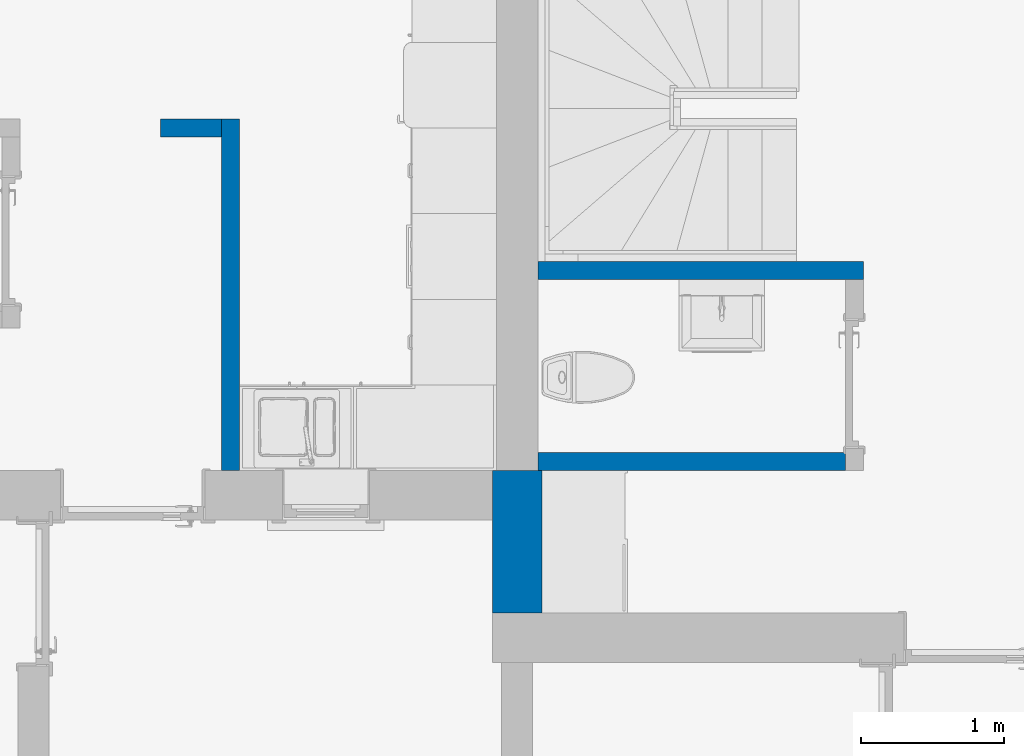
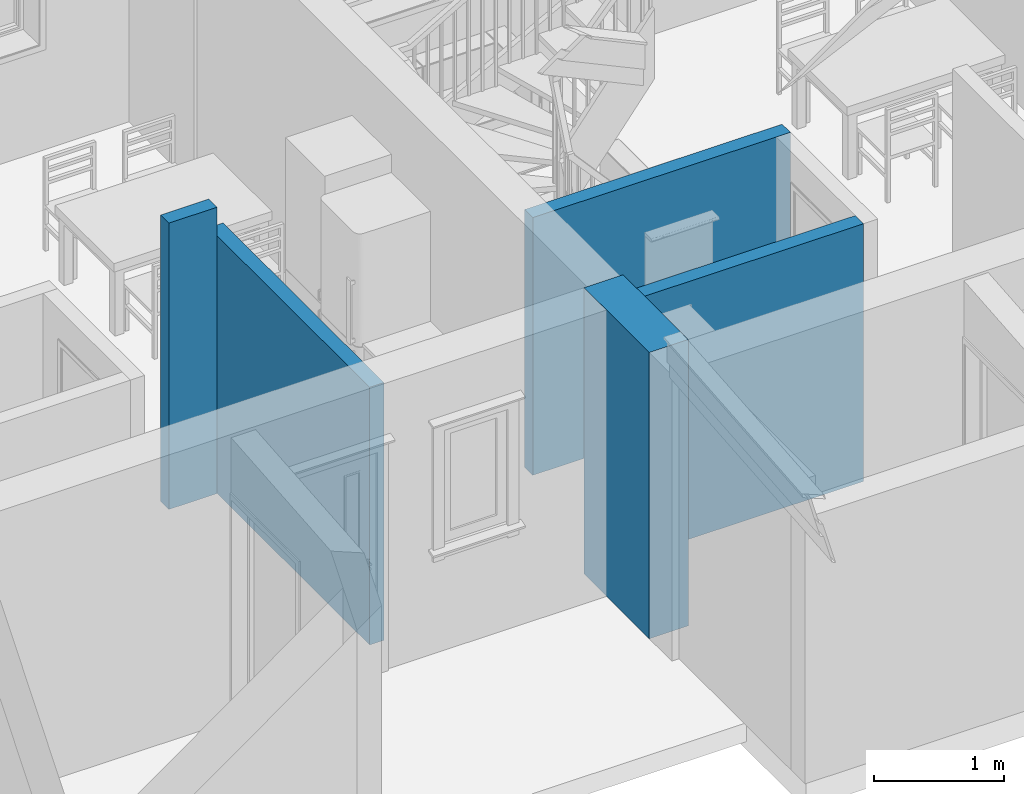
# One storey, part 8 of 65: 5 walls.
"""IFC2X3 building model written with IfcOpenShell, lengths in millimetres."""

from ifc_helpers import new_model, entity, si_unit, converted_unit, direction, frame, frame_2d, origin, place, context, subcontext, project, spatial, rectangle, extrude, material, layer, layer_set, layer_usage, type_object, element, save


model = new_model("IFC2X3")

# Units and contexts
model_context = context("Model", 3, precision=0.01, world=origin(), true_north=direction((0.0, 1.0)))
body_context = subcontext(model_context, "Body", "Model", "MODEL_VIEW")
ifc_project = project(units=[si_unit("LENGTHUNIT", "METRE", prefix="MILLI"), si_unit("AREAUNIT", "SQUARE_METRE"), si_unit("VOLUMEUNIT", "CUBIC_METRE"), converted_unit("PLANEANGLEUNIT", "DEGREE", entity("IfcPlaneAngleMeasure", 0.017453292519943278), si_unit("PLANEANGLEUNIT", "RADIAN"), dimensions=[0, 0, 0, 0, 0, 0, 0])], contexts=[model_context])

# Site, building, storey
site_placement = place(None, origin())
site = spatial("IfcSite", under=ifc_project, at=site_placement, Name="Default", CompositionType="ELEMENT")
building_placement = place(site_placement, origin())
building = spatial("IfcBuilding", under=site, at=building_placement, CompositionType="ELEMENT")
storey_placement = place(building_placement, origin())
storey = spatial("IfcBuildingStorey", under=building, at=storey_placement, Name="Et. 1", CompositionType="ELEMENT", Elevation=0.0)

# Walls
ifc_material_1 = material(Name="Vegg - Stående Kledning_smal - HVIT")
ifc_layer_1 = layer(ifc_material_1, 19.0)
ifc_material_2 = material(Name="Vegg - Utlekting")
ifc_layer_2 = layer(ifc_material_2, 36.0)
ifc_layer_3 = layer(ifc_material_2, 23.0)
ifc_material_3 = material(Name="Vegg - Gips - GU")
ifc_layer_4 = layer(ifc_material_3, 9.0)
ifc_material_4 = material(Name="Vegg - Stender - Isolert")
ifc_layer_5 = layer(ifc_material_4, 198.0)
ifc_material_5 = material(Name="Vegg - Påforing - Isolert")
ifc_layer_6 = layer(ifc_material_5, 48.0)
ifc_material_6 = material(Name="Vegg - Gips - Hvit")
ifc_layer_7 = layer(ifc_material_6, 13.000000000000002)
ifc_layer_set_1 = layer_set([ifc_layer_1, ifc_layer_2, ifc_layer_3, ifc_layer_4, ifc_layer_5, ifc_layer_6, ifc_layer_7], Name="Basic Wall:23-Kv(sm)TIG-19_36_23_9_198_48_13")
ifc_layer_usage_1 = layer_usage(ifc_layer_set_1, "AXIS2", "NEGATIVE", 173.0)
wall_type_1 = type_object("IfcWallType", Name="Basic Wall:23-Kv(sm)TIG-19_36_23_9_198_48_13", PredefinedType="STANDARD", material=ifc_layer_set_1)
wall_1_placement = place(storey_placement, frame((16178.009586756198, 10754.180957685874, 0.0), z_axis=(0.0, 0.0, 1.0), x_axis=(0.0, 1.0, 0.0)))
element("IfcWallStandardCase", 1, at=wall_1_placement, inside=storey, type_object=wall_type_1, material=ifc_layer_usage_1, Name="Basic Wall:23-Kv(sm)TIG-19_36_23_9_198_48_13", context=body_context, shape_type="SweptSolid", body=[
    extrude(rectangle(XDim=1000.0000000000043, YDim=345.9999999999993, at=frame_2d((500.00000000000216, 0.0), x_axis=(-1.0, 0.0))), origin(), (0.0, 0.0, 1.0), 2681.0),
])
ifc_material_7 = material(Name="Vegg - Gips - Innvendig - Hvit")
ifc_layer_8 = layer(ifc_material_7, 13.000000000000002)
ifc_material_8 = material(Name="Vegg - Stender - Stål - Isolert")
ifc_layer_9 = layer(ifc_material_8, 100.0)
ifc_layer_10 = layer(ifc_material_7, 13.000000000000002)
ifc_layer_set_2 = layer_set([ifc_layer_8, ifc_layer_9, ifc_layer_10], Name="Basic Wall:24-GSIG-13_100_13")
ifc_layer_usage_2 = layer_usage(ifc_layer_set_2, "AXIS2", "NEGATIVE", 63.00000000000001)
wall_type_2 = type_object("IfcWallType", Name="Basic Wall:24-GSIG-13_100_13", PredefinedType="STANDARD", material=ifc_layer_set_2)
wall_2_placement = place(storey_placement, frame((14169.009586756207, 11754.180957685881, 0.0), z_axis=(0.0, 0.0, 1.0), x_axis=(0.0, 1.0, 0.0)))
element("IfcWallStandardCase", 2, at=wall_2_placement, inside=storey, type_object=wall_type_2, material=ifc_layer_usage_2, Name="Basic Wall:24-GSIG-13_100_13", context=body_context, shape_type="SweptSolid", body=[
    extrude(rectangle(XDim=2464.877761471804, YDim=126.00000000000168, at=frame_2d((1232.438880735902, 5.3290705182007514e-14), x_axis=(-1.0, 0.0))), origin(), (0.0, 0.0, 1.0), 2413.0),
])
ifc_layer_usage_3 = layer_usage(ifc_layer_set_2, "AXIS2", "NEGATIVE", 63.00000000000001)
wall_3_placement = place(storey_placement, frame((16324.009586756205, 13156.058719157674, 0.0)))
element("IfcWallStandardCase", 3, at=wall_3_placement, inside=storey, type_object=wall_type_2, material=ifc_layer_usage_3, Name="Basic Wall:24-GSIG-13_100_13", context=body_context, shape_type="SweptSolid", body=[
    extrude(rectangle(XDim=2281.0000000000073, YDim=126.00000000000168, at=frame_2d((1140.5000000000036, -4.263256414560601e-14), x_axis=(-1.0, 0.0))), origin(), (0.0, 0.0, 1.0), 2413.0),
])
ifc_layer_usage_4 = layer_usage(ifc_layer_set_2, "AXIS2", "NEGATIVE", 63.00000000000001)
wall_4_placement = place(storey_placement, frame((18479.009586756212, 11817.18095768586, 0.0), z_axis=(0.0, 0.0, 1.0), x_axis=(-1.0, 0.0, 0.0)))
element("IfcWallStandardCase", 4, at=wall_4_placement, inside=storey, type_object=wall_type_2, material=ifc_layer_usage_4, Name="Basic Wall:24-GSIG-13_100_13", context=body_context, shape_type="SweptSolid", body=[
    extrude(rectangle(XDim=2155.0000000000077, YDim=126.00000000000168, at=frame_2d((1077.5000000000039, -7.105427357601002e-14), x_axis=(-1.0, 0.0))), origin(), (0.0, 0.0, 1.0), 2413.0),
])
ifc_layer_usage_5 = layer_usage(ifc_layer_set_2, "AXIS2", "NEGATIVE", 63.00000000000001)
wall_5_placement = place(storey_placement, frame((13678.009586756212, 14156.058719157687, 0.0)))
element("IfcWallStandardCase", 5, at=wall_5_placement, inside=storey, type_object=wall_type_2, material=ifc_layer_usage_5, Name="Basic Wall:24-GSIG-13_100_13", context=body_context, shape_type="SweptSolid", body=[
    extrude(rectangle(XDim=427.999999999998, YDim=126.00000000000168, at=frame_2d((213.999999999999, 0.0), x_axis=(-1.0, 0.0))), origin(), (0.0, 0.0, 1.0), 2681.0),
])

save(model, "model.ifc")
